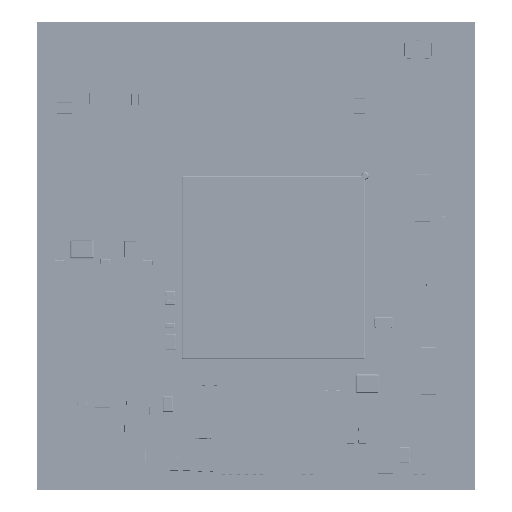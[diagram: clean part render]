
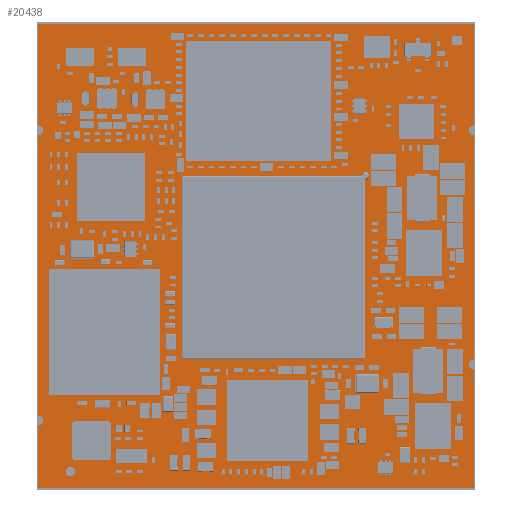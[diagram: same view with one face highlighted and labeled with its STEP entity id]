
A CAD part, top view. The second image highlights one B-rep face of the part: STEP entity #20438.
In plain terms, the highlighted planar face has unit normal (0, 0, 1).
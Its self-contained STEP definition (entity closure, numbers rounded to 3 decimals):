
#20438=ADVANCED_FACE('',(#37528),#37529,.T.);
#37528=FACE_OUTER_BOUND('',#56465,.T.);
#37529=PLANE('',#56466);
#56465=EDGE_LOOP('',(#81527,#81528,#81529,#81530,#81531,#81532,#81533,#81534,#81535,#81536,#81537,#81538,#81539));
#56466=AXIS2_PLACEMENT_3D('',#81540,#81541,#81542);
#81527=ORIENTED_EDGE('',*,*,#102564,.T.);
#81528=ORIENTED_EDGE('',*,*,#102566,.T.);
#81529=ORIENTED_EDGE('',*,*,#102567,.T.);
#81530=ORIENTED_EDGE('',*,*,#102568,.T.);
#81531=ORIENTED_EDGE('',*,*,#102569,.T.);
#81532=ORIENTED_EDGE('',*,*,#102570,.T.);
#81533=ORIENTED_EDGE('',*,*,#102571,.T.);
#81534=ORIENTED_EDGE('',*,*,#102572,.T.);
#81535=ORIENTED_EDGE('',*,*,#102573,.T.);
#81536=ORIENTED_EDGE('',*,*,#102574,.T.);
#81537=ORIENTED_EDGE('',*,*,#102575,.T.);
#81538=ORIENTED_EDGE('',*,*,#102576,.T.);
#81539=ORIENTED_EDGE('',*,*,#102577,.T.);
#81540=CARTESIAN_POINT('',(22.501,23.993,1.704));
#81541=DIRECTION('',(0.0,0.0,1.0));
#81542=DIRECTION('',(1.0,0.0,0.0));
#102564=EDGE_CURVE('',#116928,#116932,#116934,.T.);
#102566=EDGE_CURVE('',#116932,#116936,#116937,.T.);
#102567=EDGE_CURVE('',#116936,#116938,#116939,.T.);
#102568=EDGE_CURVE('',#116938,#116940,#116941,.T.);
#102569=EDGE_CURVE('',#116940,#116942,#116943,.T.);
#102570=EDGE_CURVE('',#116942,#116944,#116945,.T.);
#102571=EDGE_CURVE('',#116944,#116946,#116947,.T.);
#102572=EDGE_CURVE('',#116946,#116948,#116949,.T.);
#102573=EDGE_CURVE('',#116948,#116950,#116951,.T.);
#102574=EDGE_CURVE('',#116950,#116952,#116953,.T.);
#102575=EDGE_CURVE('',#116952,#116954,#116955,.T.);
#102576=EDGE_CURVE('',#116954,#116956,#116957,.T.);
#102577=EDGE_CURVE('',#116956,#116928,#116958,.T.);
#116928=VERTEX_POINT('',#136797);
#116932=VERTEX_POINT('',#136802);
#116934=CIRCLE('',#136805,0.5);
#116936=VERTEX_POINT('',#136807);
#116937=CIRCLE('',#136808,0.5);
#116938=VERTEX_POINT('',#136809);
#116939=LINE('',#136810,#136811);
#116940=VERTEX_POINT('',#136812);
#116941=CIRCLE('',#136813,0.5);
#116942=VERTEX_POINT('',#136814);
#116943=LINE('',#136815,#136816);
#116944=VERTEX_POINT('',#136817);
#116945=LINE('',#136818,#136819);
#116946=VERTEX_POINT('',#136820);
#116947=LINE('',#136821,#136822);
#116948=VERTEX_POINT('',#136823);
#116949=CIRCLE('',#136824,0.5);
#116950=VERTEX_POINT('',#136825);
#116951=LINE('',#136826,#136827);
#116952=VERTEX_POINT('',#136828);
#116953=CIRCLE('',#136829,0.5);
#116954=VERTEX_POINT('',#136830);
#116955=LINE('',#136831,#136832);
#116956=VERTEX_POINT('',#136833);
#116957=LINE('',#136834,#136835);
#116958=LINE('',#136836,#136837);
#136797=CARTESIAN_POINT('',(45.,12.3,1.704));
#136802=CARTESIAN_POINT('',(44.627,13.133,1.704));
#136805=AXIS2_PLACEMENT_3D('',#151697,#151698,#151699);
#136807=CARTESIAN_POINT('',(45.,13.3,1.704));
#136808=AXIS2_PLACEMENT_3D('',#151700,#151701,#151702);
#136809=CARTESIAN_POINT('',(45.0,36.5,1.704));
#136810=CARTESIAN_POINT('',(45.,24.9,1.704));
#136811=VECTOR('',#151703,1.0);
#136812=CARTESIAN_POINT('',(45.0,37.5,1.704));
#136813=AXIS2_PLACEMENT_3D('',#151704,#151705,#151706);
#136814=CARTESIAN_POINT('',(45.0,48.0,1.704));
#136815=CARTESIAN_POINT('',(45.0,42.75,1.704));
#136816=VECTOR('',#151707,1.0);
#136817=CARTESIAN_POINT('',(0.0,48.0,1.704));
#136818=CARTESIAN_POINT('',(22.5,48.0,1.704));
#136819=VECTOR('',#151708,1.0);
#136820=CARTESIAN_POINT('',(0.0,37.5,1.704));
#136821=CARTESIAN_POINT('',(0.0,42.75,1.704));
#136822=VECTOR('',#151709,1.0);
#136823=CARTESIAN_POINT('',(0.,36.5,1.704));
#136824=AXIS2_PLACEMENT_3D('',#151710,#151711,#151712);
#136825=CARTESIAN_POINT('',(0.0,7.5,1.704));
#136826=CARTESIAN_POINT('',(0.,22.0,1.704));
#136827=VECTOR('',#151713,1.0);
#136828=CARTESIAN_POINT('',(0.,6.5,1.704));
#136829=AXIS2_PLACEMENT_3D('',#151714,#151715,#151716);
#136830=CARTESIAN_POINT('',(0.0,0.0,1.704));
#136831=CARTESIAN_POINT('',(0.,3.25,1.704));
#136832=VECTOR('',#151717,1.0);
#136833=CARTESIAN_POINT('',(45.0,0.0,1.704));
#136834=CARTESIAN_POINT('',(22.5,0.0,1.704));
#136835=VECTOR('',#151718,1.0);
#136836=CARTESIAN_POINT('',(45.,6.152,1.704));
#136837=VECTOR('',#151719,1.0);
#151697=CARTESIAN_POINT('',(45.0,12.8,1.704));
#151698=DIRECTION('',(0.0,0.0,-1.0));
#151699=DIRECTION('',(0.0,1.0,0.0));
#151700=CARTESIAN_POINT('',(45.0,12.8,1.704));
#151701=DIRECTION('',(-0.0,0.0,-1.0));
#151702=DIRECTION('',(0.,-1.,0.0));
#151703=DIRECTION('',(0.,1.,0.0));
#151704=CARTESIAN_POINT('',(45.0,37.0,1.704));
#151705=DIRECTION('',(0.0,0.0,-1.0));
#151706=DIRECTION('',(0.0,-1.0,0.0));
#151707=DIRECTION('',(0.0,1.0,0.0));
#151708=DIRECTION('',(-1.0,0.0,0.0));
#151709=DIRECTION('',(0.0,-1.0,0.0));
#151710=CARTESIAN_POINT('',(0.0,37.0,1.704));
#151711=DIRECTION('',(0.0,0.0,-1.0));
#151712=DIRECTION('',(0.0,1.0,0.0));
#151713=DIRECTION('',(0.,-1.0,0.0));
#151714=CARTESIAN_POINT('',(0.0,7.0,1.704));
#151715=DIRECTION('',(0.0,0.0,-1.0));
#151716=DIRECTION('',(0.0,1.0,0.0));
#151717=DIRECTION('',(0.,-1.0,0.0));
#151718=DIRECTION('',(1.0,0.0,0.0));
#151719=DIRECTION('',(0.,1.,0.0));
